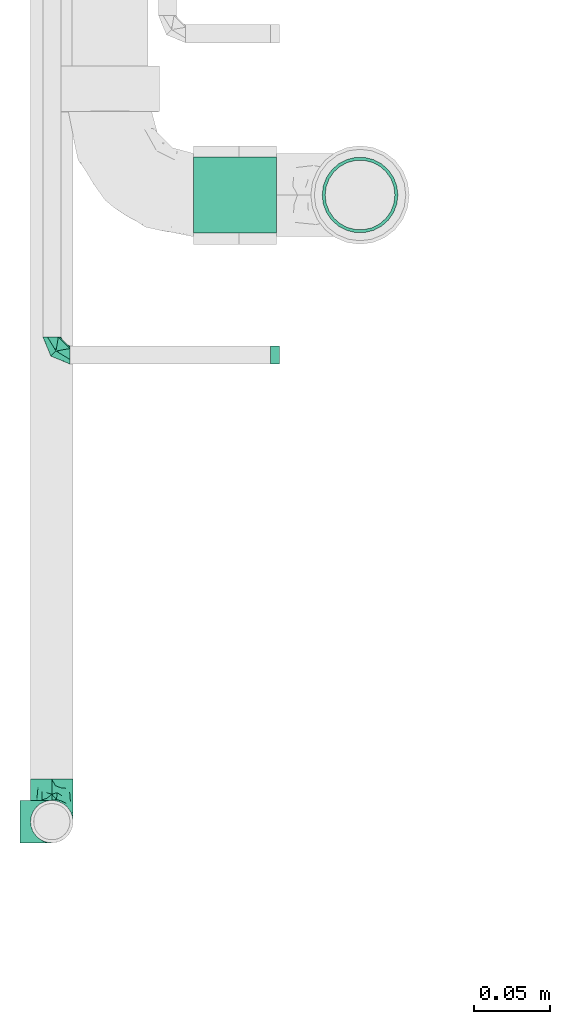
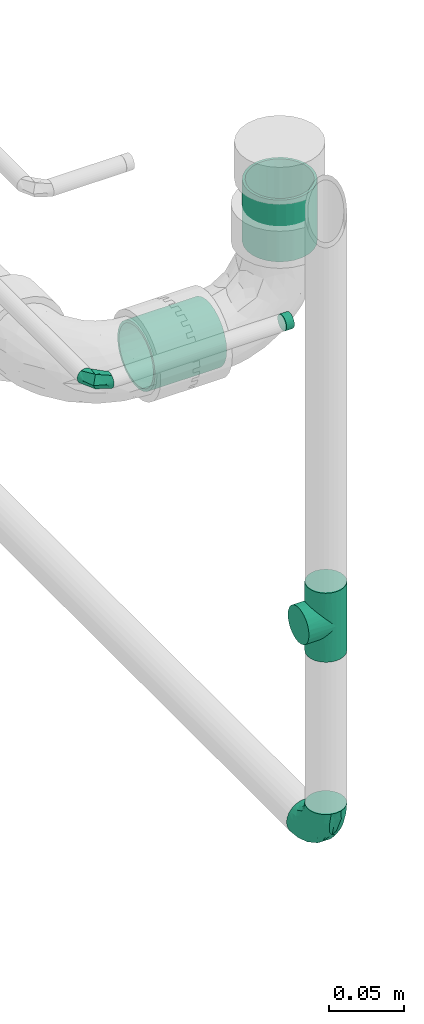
# One storey, part 65 of 108: 4 flow fittings, 2 flow segments.
"""IFC2X3 building model written with IfcOpenShell, lengths in millimetres."""

import ifcopenshell
import ifcopenshell.guid

model = None  # the IFC model being written
_history = None  # IfcOwnerHistory: only IFC2X3 demands one
_inside = {}  # id of a spatial element -> (the spatial element, [elements in it])
_under = {}  # id of a project, library or spatial element -> (it, [spatial elements below it])
_declared = {}  # id of a project -> (the project, [libraries it declares])
_typed = {}  # id of a type object -> (the type object, [elements of that type])
_made_of = {}  # id of a material, layer set ... -> (it, [elements and type objects made of it])


def new_model(schema):
    """Start an empty IFC model of exactly this schema.

    Asked for "IFC4X3", IfcOpenShell would pick the latest addendum, in which some entities
    have other attributes; the version numbers below select the first issue.
    IFC2X3 requires an IfcOwnerHistory on every rooted entity: one is made here for all.
    """
    global model, _history
    if schema == "IFC4X3":
        model = ifcopenshell.file(schema_version=(4, 3, 0, 0))
    else:
        model = ifcopenshell.file(schema=schema)
    _inside.clear()
    _under.clear()
    _declared.clear()
    _typed.clear()
    _made_of.clear()
    _history = None
    if model.schema == "IFC2X3":
        org = make("IfcOrganization", Name="unknown")
        user = make(
            "IfcPersonAndOrganization",
            ThePerson=make("IfcPerson", FamilyName="unknown"),
            TheOrganization=org,
        )
        app = make(
            "IfcApplication",
            ApplicationDeveloper=org,
            Version="unknown",
            ApplicationFullName="unknown",
            ApplicationIdentifier="unknown",
        )
        _history = make(
            "IfcOwnerHistory",
            OwningUser=user,
            OwningApplication=app,
            ChangeAction="ADDED",
            CreationDate=0,
        )
    return model


def make(cls, **values):
    """One entity of the class cls with the attributes given. An attribute that is None is left unset."""
    return model.create_entity(
        cls, **{name: value for name, value in values.items() if value is not None}
    )


def entity(cls, *values):
    """Any entity or typed value of the class cls, its attributes in the order of the schema. None: left unset."""
    e = model.create_entity(cls)
    for i, value in enumerate(values):
        if value is not None:
            e[i] = value
    return e


def rooted(cls, **values):
    """An entity with a GlobalId (a new one), such as an element, a storey or a relation."""
    return make(cls, GlobalId=ifcopenshell.guid.new(), OwnerHistory=_history, **values)


def si_unit(unit_type, name, prefix=None):
    """IfcSIUnit, for example si_unit("LENGTHUNIT", "METRE", prefix="MILLI")."""
    return make("IfcSIUnit", UnitType=unit_type, Prefix=prefix, Name=name)


def converted_unit(unit_type, name, factor, base, dimensions=None, offset=None):
    """IfcConversionBasedUnit, such as the inch: factor (a typed value) times the base unit."""
    return make(
        "IfcConversionBasedUnit"
        if offset is None
        else "IfcConversionBasedUnitWithOffset",
        ConversionOffset=offset,
        Dimensions=None
        if dimensions is None
        else entity("IfcDimensionalExponents", *dimensions),
        UnitType=unit_type,
        Name=name,
        ConversionFactor=make(
            "IfcMeasureWithUnit", ValueComponent=factor, UnitComponent=base
        ),
    )


def derived_unit(unit_type, elements):
    """IfcDerivedUnit: a product of units, each with its exponent."""
    return make(
        "IfcDerivedUnit",
        Elements=[
            make("IfcDerivedUnitElement", Unit=unit, Exponent=power)
            for unit, power in elements
        ],
        UnitType=unit_type,
    )


def assignment(units):
    """IfcUnitAssignment: the units of a project."""
    return None if units is None else make("IfcUnitAssignment", Units=units)


def point(xyz):
    """IfcCartesianPoint."""
    return None if xyz is None else make("IfcCartesianPoint", Coordinates=xyz)


def direction(xyz):
    """IfcDirection."""
    return None if xyz is None else make("IfcDirection", DirectionRatios=xyz)


def frame(location, z_axis=None, x_axis=None):
    """IfcAxis2Placement3D, a coordinate frame: its origin and axes. An axis left out is left unset."""
    return make(
        "IfcAxis2Placement3D",
        Location=point(location),
        Axis=direction(z_axis),
        RefDirection=direction(x_axis),
    )


def frame_2d(location, x_axis=None):
    """IfcAxis2Placement2D, a coordinate frame in the plane: its origin and x axis."""
    return make(
        "IfcAxis2Placement2D", Location=point(location), RefDirection=direction(x_axis)
    )


def origin_with_axes():
    """The frame at (0, 0, 0) with the z axis (0, 0, 1) and the x axis (1, 0, 0) written out."""
    return frame((0.0, 0.0, 0.0), z_axis=(0.0, 0.0, 1.0), x_axis=(1.0, 0.0, 0.0))


def origin_2d_with_axis():
    """The frame at (0, 0) in the plane with the x axis (1, 0) written out."""
    return frame_2d((0.0, 0.0), x_axis=(1.0, 0.0))


def place(relative_to, where):
    """IfcLocalPlacement: puts the frame where relative to a parent placement (None: the world)."""
    return make(
        "IfcLocalPlacement", PlacementRelTo=relative_to, RelativePlacement=where
    )


def context(
    kind, dimensions, precision=None, world=None, true_north=None, identifier=None
):
    """IfcGeometricRepresentationContext, for example the 3D "Model" context."""
    return make(
        "IfcGeometricRepresentationContext",
        ContextIdentifier=identifier,
        ContextType=kind,
        CoordinateSpaceDimension=dimensions,
        Precision=precision,
        WorldCoordinateSystem=world,
        TrueNorth=true_north,
    )


def subcontext(parent, identifier, kind, view, scale=None):
    """IfcGeometricRepresentationSubContext, for example "Body" below "Model"."""
    return make(
        "IfcGeometricRepresentationSubContext",
        ContextIdentifier=identifier,
        ContextType=kind,
        ParentContext=parent,
        TargetScale=scale,
        TargetView=view,
    )


def project(units=None, contexts=None):
    """IfcProject with its units and contexts."""
    return rooted(
        "IfcProject",
        Name="project",
        RepresentationContexts=contexts,
        UnitsInContext=assignment(units),
    )


def spatial(cls, under=None, at=None, **own):
    """A site, building, storey or space (cls), placed at a placement, below another one or the project."""
    s = rooted(cls, ObjectPlacement=at, **own)
    if under is not None:
        _under.setdefault(under.id(), (under, []))[1].append(s)
    return s


def profile(cls, at=None, kind="AREA", **sizes):
    """A parametric profile (cls). Its sizes go by their IFC names, for example OverallWidth=200.0."""
    return make(cls, ProfileType=kind, Position=at, **sizes)


def hollow_circle(**sizes):
    """IfcCircleHollowProfileDef."""
    return profile("IfcCircleHollowProfileDef", **sizes)


def extrude(swept, where, along, depth):
    """IfcExtrudedAreaSolid: the profile swept, set in the frame where, extruded along a direction by depth."""
    return make(
        "IfcExtrudedAreaSolid",
        SweptArea=swept,
        Position=where,
        ExtrudedDirection=direction(along),
        Depth=depth,
    )


def faces_of(points, faces, orient=None, outer=None):
    """IfcFace entities. A face is a list of loops; a loop is a list of indices into points, from 0.

    orient and outer hold one flag for each loop. By default every Orientation is true, the
    first loop of a face is its IfcFaceOuterBound and the others are IfcFaceBound.
    """
    made = []
    for i, loops in enumerate(faces):
        bounds = []
        for j, loop in enumerate(loops):
            is_outer = j == 0 if outer is None else outer[i][j]
            bounds.append(
                make(
                    "IfcFaceOuterBound" if is_outer else "IfcFaceBound",
                    Bound=make("IfcPolyLoop", Polygon=[points[k] for k in loop]),
                    Orientation=True if orient is None else orient[i][j],
                )
            )
        made.append(make("IfcFace", Bounds=bounds))
    return made


def open_shell(faces, orient=None, outer=None):
    """The faces of one IfcOpenShell. surface_model builds it on its shared points."""
    return ("IfcOpenShell", faces, orient, outer)


def surface_model(cls, points, shells):
    """IfcFaceBasedSurfaceModel or IfcShellBasedSurfaceModel (cls): surfaces that need not close."""
    shared = [point(p) for p in points]
    made = [make(c, CfsFaces=faces_of(shared, fs, o, b)) for c, fs, o, b in shells]
    if cls == "IfcFaceBasedSurfaceModel":
        return make(cls, FbsmFaces=made)
    return make(cls, SbsmBoundary=made)


def shape(context_of_items, identifier, shape_type, items):
    """IfcShapeRepresentation: the items that make up one representation, for example the "Body"."""
    return make(
        "IfcShapeRepresentation",
        ContextOfItems=context_of_items,
        RepresentationIdentifier=identifier,
        RepresentationType=shape_type,
        Items=items,
    )


def source(mapping_origin, context_of_items, identifier, shape_type, items):
    """IfcRepresentationMap: a shape defined once, which mapped items show again and again."""
    return make(
        "IfcRepresentationMap",
        MappingOrigin=mapping_origin,
        MappedRepresentation=shape(context_of_items, identifier, shape_type, items),
    )


def transform(
    local_origin,
    x_axis=None,
    y_axis=None,
    z_axis=None,
    scale=None,
    scale2=None,
    scale3=None,
    uniform=True,
):
    """IfcCartesianTransformationOperator3D, or its non-uniform kind. x_axis, y_axis, z_axis: its Axis1, 2, 3."""
    if uniform:
        return make(
            "IfcCartesianTransformationOperator3D",
            Axis1=direction(x_axis),
            Axis2=direction(y_axis),
            LocalOrigin=point(local_origin),
            Scale=scale,
            Axis3=direction(z_axis),
        )
    return make(
        "IfcCartesianTransformationOperator3DnonUniform",
        Axis1=direction(x_axis),
        Axis2=direction(y_axis),
        LocalOrigin=point(local_origin),
        Scale=scale,
        Axis3=direction(z_axis),
        Scale2=scale2,
        Scale3=scale3,
    )


def mapped(mapping_source, mapping_target):
    """IfcMappedItem: shows the shape of a source again, moved by a transform."""
    return make(
        "IfcMappedItem", MappingSource=mapping_source, MappingTarget=mapping_target
    )


def made_of(thing, what):
    """Note that an element or type object is made of a material, layer set ...; save() writes the relation."""
    if what is not None:
        _made_of.setdefault(what.id(), (what, []))[1].append(thing)
    return thing


def type_object(cls, material=None, **own):
    """A type object (cls), such as IfcWallType, which elements share."""
    return made_of(rooted(cls, **own), material)


def element(
    cls,
    number,
    at=None,
    inside=None,
    cuts=None,
    type_object=None,
    material=None,
    context=None,
    identifier="Body",
    shape_type=None,
    held_by="IfcProductDefinitionShape",
    body=None,
    shapes=None,
    **own,
):
    """One element of the class cls, such as IfcWall. Its Tag is "e" and its number.

    at: its placement. inside: the storey or other place that contains it. cuts: it is an
    opening in that element (IfcRelVoidsElement). A single representation is given by context,
    identifier, shape_type and body (its items); several are given by shapes. held_by: the class
    of the entity that holds the representations. save() writes the other relations.
    """
    e = rooted(cls, Tag="e%d" % number, ObjectPlacement=at, **own)
    if body is not None:
        shapes = [shape(context, identifier, shape_type, body)]
    if shapes is not None:
        e.Representation = make(held_by, Representations=shapes)
    if inside is not None:
        _inside.setdefault(inside.id(), (inside, []))[1].append(e)
    if cuts is not None:
        rooted(
            "IfcRelVoidsElement", RelatingBuildingElement=cuts, RelatedOpeningElement=e
        )
    if type_object is not None:
        _typed.setdefault(type_object.id(), (type_object, []))[1].append(e)
    return made_of(e, material)


def aggregate(whole, parts):
    """IfcRelAggregates: a whole, such as a stair, and the parts it consists of."""
    return rooted("IfcRelAggregates", RelatingObject=whole, RelatedObjects=parts)


def save(model, path):
    """Write the relations noted so far, then the file.

    IfcRelAggregates (storeys below a building ...), IfcRelContainedInSpatialStructure (elements
    in a storey), IfcRelDefinesByType, IfcRelAssociatesMaterial and IfcRelDeclares: one each for
    every whole, place, type object, material and project.
    """
    for whole, parts in _under.values():
        aggregate(whole, parts)
    for where, things in _inside.values():
        rooted(
            "IfcRelContainedInSpatialStructure",
            RelatedElements=things,
            RelatingStructure=where,
        )
    for kind, things in _typed.values():
        rooted("IfcRelDefinesByType", RelatedObjects=things, RelatingType=kind)
    for what, things in _made_of.values():
        rooted("IfcRelAssociatesMaterial", RelatedObjects=things, RelatingMaterial=what)
    for by, libraries in _declared.values():
        rooted("IfcRelDeclares", RelatingContext=by, RelatedDefinitions=libraries)
    model.write(path)


model = new_model("IFC2X3")

# Units and contexts
model_context = context("Model", 3, precision=0.01, world=frame((0.0, 4.29681676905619e-09, 0.0)), true_north=direction((4.01073788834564e-13, 1.0)))
plan_context = context("Plan", 3, precision=0.01, world=frame((0.0, 4.29681676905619e-09, 0.0)), true_north=direction((4.01073788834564e-13, 1.0)))
body_context = subcontext(model_context, "Body", "Model", "MODEL_VIEW")
ifc_project = project(units=[converted_unit("PLANEANGLEUNIT", "DEGREE", entity("IfcPositiveLengthMeasure", 0.0174532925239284), si_unit("PLANEANGLEUNIT", "RADIAN"), dimensions=[0, 0, 0, 0, 0, 0, 0]), si_unit("AREAUNIT", "SQUARE_METRE"), si_unit("LENGTHUNIT", "METRE", prefix="MILLI"), si_unit("MASSUNIT", "GRAM", prefix="KILO"), si_unit("POWERUNIT", "WATT"), si_unit("PRESSUREUNIT", "PASCAL", prefix="KILO"), si_unit("FORCEUNIT", "NEWTON", prefix="KILO"), si_unit("ELECTRICVOLTAGEUNIT", "VOLT"), si_unit("ELECTRICCURRENTUNIT", "AMPERE"), si_unit("THERMODYNAMICTEMPERATUREUNIT", "DEGREE_CELSIUS"), si_unit("TIMEUNIT", "SECOND"), si_unit("VOLUMEUNIT", "CUBIC_METRE"), derived_unit("LINEARVELOCITYUNIT", [(si_unit("LENGTHUNIT", "METRE"), 1), (si_unit("TIMEUNIT", "SECOND"), -1)]), derived_unit("VOLUMETRICFLOWRATEUNIT", [(si_unit("VOLUMEUNIT", "CUBIC_METRE"), 1), (si_unit("TIMEUNIT", "SECOND"), -1)]), derived_unit("THERMALTRANSMITTANCEUNIT", [(si_unit("POWERUNIT", "WATT"), 1), (si_unit("THERMODYNAMICTEMPERATUREUNIT", "KELVIN"), -1), (si_unit("AREAUNIT", "SQUARE_METRE"), -1)]), derived_unit("SOUNDPRESSUREUNIT", [(si_unit("PRESSUREUNIT", "PASCAL"), 1)])], contexts=[model_context, plan_context])

# Site, building, storey
site_placement = place(None, frame((0.0, -4.29681676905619e-09, 0.0), z_axis=(0.0, 0.0, 1.0), x_axis=(1.0, 0.0, 0.0)))
site = spatial("IfcSite", under=ifc_project, at=site_placement, CompositionType="ELEMENT")
building_placement = place(site_placement, frame((0.0, 4.29681676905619e-09, 0.0), z_axis=(0.0, 0.0, 1.0), x_axis=(1.0, 0.0, 0.0)))
building = spatial("IfcBuilding", under=site, at=building_placement, Name="mc-building", CompositionType="ELEMENT")
storey_placement = place(building_placement, frame((0.0, 0.0, 210200.0), z_axis=(0.0, 0.0, 1.0), x_axis=(1.0, 0.0, 0.0)))
storey = spatial("IfcBuildingStorey", under=building, at=storey_placement, Name="Nivå F - 0,7 m", CompositionType="ELEMENT", Elevation=210200.0)

# Flow fittings
pipe_fitting_type_1 = type_object("IfcPipeFittingType", Name="magi_pipe_elbow_short_001", PredefinedType="BEND")
shared_shape_1 = source(origin_with_axes(), body_context, "Body", "SurfaceModel", [
    surface_model("IfcShellBasedSurfaceModel", [(-12.0, 0.0, -6.0), (-12.0, -5.19615, -3.0), (-12.0, 1.55291, -5.79555), (-12.0, 5.79555, -1.55291), (-12.0, -5.79555, -1.55291), (-12.0, -6.0, 0.0), (-12.0, -1.55291, 5.79555), (-12.0, 0.0, 6.0), (-12.0, -3.0, 5.19615), (-12.0, 3.0, -5.19615), (-12.0, 5.19615, -3.0), (-12.0, 4.24264, -4.24264), (-12.0, -3.0, -5.19615), (-12.0, -4.24264, -4.24264), (-12.0, -1.55291, -5.79555), (-12.0, 6.0, 0.0), (-12.0, -4.24264, 4.24264), (-12.0, 5.79555, 1.55291), (-12.0, 5.19615, 3.0), (-12.0, 4.24264, 4.24264), (-12.0, 1.55291, 5.79555), (-12.0, 3.0, 5.19615), (-12.0, -5.79555, 1.55291), (-12.0, -5.19615, 3.0), (-1.55291, 12.0, -5.79555), (5.19615, 12.0, -3.0), (0.0, 12.0, -6.0), (-5.79555, 12.0, -1.55291), (-3.0, 12.0, -5.19615), (-4.24264, 12.0, -4.24264), (-5.19615, 12.0, -3.0), (1.55291, 12.0, -5.79555), (4.24264, 12.0, -4.24264), (3.0, 12.0, -5.19615), (6.0, 12.0, 0.0), (5.79555, 12.0, -1.55291), (-4.24264, 12.0, 4.24264), (-3.0, 12.0, 5.19615), (-1.55291, 12.0, 5.79555), (4.24264, 12.0, 4.24264), (5.19615, 12.0, 3.0), (3.0, 12.0, 5.19615), (0.0, 12.0, 6.0), (1.55291, 12.0, 5.79555), (-2.67965, 2.67964, 5.88263), (-6.5981, -3.76246, 0.0), (0.72792, -0.72792, 0.0), (3.76246, 6.5981, 0.0), (5.79555, 12.0, 1.55291), (-5.19615, 12.0, 3.0), (-7.75736, 7.75736, 0.0), (-5.79555, 12.0, 1.55291), (-6.0, 12.0, 0.0), (-2.67964, 2.67964, -5.88263)], [open_shell([[[0, 1, 2]], [[3, 2, 1]], [[4, 5, 1]], [[6, 7, 8]], [[9, 2, 3]], [[3, 10, 11]], [[9, 3, 11]], [[12, 13, 14]], [[1, 14, 13]], [[0, 14, 1]], [[1, 5, 3]], [[5, 15, 3]], [[16, 17, 5]], [[18, 17, 19]], [[20, 21, 19]], [[17, 20, 19]], [[20, 17, 8]], [[5, 22, 23]], [[5, 23, 16]], [[17, 16, 8]], [[20, 8, 7]], [[17, 15, 5]], [[24, 25, 26]], [[27, 24, 28]], [[29, 30, 27]], [[29, 27, 28]], [[31, 32, 33]], [[32, 31, 25]], [[25, 34, 35]], [[25, 31, 26]], [[36, 37, 38]], [[39, 40, 34]], [[41, 42, 43]], [[42, 41, 38]], [[6, 44, 7]], [[23, 22, 45]], [[16, 23, 45]], [[22, 5, 45]], [[46, 47, 44]], [[8, 45, 44]], [[20, 7, 44]], [[8, 44, 6]], [[40, 47, 48]], [[16, 45, 8]], [[18, 19, 49]], [[44, 19, 21]], [[17, 18, 50]], [[50, 15, 17]], [[50, 18, 49]], [[21, 20, 44]], [[45, 46, 44]], [[41, 43, 44]], [[47, 41, 44]], [[43, 42, 44]], [[34, 48, 47]], [[41, 47, 39]], [[39, 47, 40]], [[49, 51, 50]], [[52, 50, 51]], [[37, 36, 44]], [[36, 19, 44]], [[49, 19, 36]], [[38, 37, 44]], [[42, 38, 44]], [[9, 53, 2]], [[2, 53, 0]], [[50, 10, 3]], [[46, 45, 53]], [[11, 29, 53]], [[1, 45, 4]], [[11, 10, 29]], [[9, 11, 53]], [[45, 5, 4]], [[1, 13, 45]], [[14, 53, 12]], [[45, 13, 12]], [[12, 53, 45]], [[0, 53, 14]], [[3, 15, 50]], [[50, 52, 27]], [[50, 27, 30]], [[29, 10, 30]], [[31, 53, 26]], [[53, 28, 24]], [[35, 34, 47]], [[53, 29, 28]], [[26, 53, 24]], [[53, 33, 47]], [[47, 33, 32]], [[25, 35, 47]], [[47, 46, 53]], [[47, 32, 25]], [[33, 53, 31]], [[30, 10, 50]], [[25, 24, 27]], [[27, 34, 25]], [[27, 52, 34]], [[34, 51, 39]], [[36, 51, 49]], [[36, 38, 51]], [[41, 51, 38]], [[40, 48, 34]], [[41, 39, 51]], [[34, 52, 51]]])]),
])
flow_fitting_1_placement = place(storey_placement, frame((321845.77944, 461449.93583, 570.000319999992), z_axis=(0.000171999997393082, -2.69999995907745e-05, 0.9999999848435), x_axis=(0.0, -0.9999999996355, -2.69999999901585e-05)))
element("IfcFlowFitting", 1, at=flow_fitting_1_placement, inside=storey, type_object=pipe_fitting_type_1, Name="magi_pipe_elbow_short_001", context=body_context, shape_type="MappedRepresentation", body=[
    mapped(shared_shape_1, transform((0.0, 0.0, 0.0), scale=1.0)),
])
shared_shape_2 = source(origin_with_axes(), body_context, "Body", "SurfaceModel", [
    surface_model("IfcShellBasedSurfaceModel", [(-28.0, 3.62347, -13.52296), (-28.0, 0.0, -14.0), (-28.0, 13.52296, -3.62347), (-28.0, 7.0, -12.12436), (-28.0, 9.89949, -9.89949), (-28.0, 12.12436, -7.0), (-28.0, -9.89949, 9.89949), (-28.0, -13.52296, -3.62347), (-28.0, -7.0, -12.12436), (-28.0, -9.89949, -9.89949), (-28.0, -3.62347, -13.52296), (-28.0, -12.12436, -7.0), (-28.0, -14.0, 0.0), (-28.0, -13.52296, 3.62347), (-28.0, 13.52296, 3.62347), (-28.0, 14.0, 0.0), (-28.0, 3.62347, 13.52296), (-28.0, 12.12436, 7.0), (-28.0, 9.89949, 9.89949), (-28.0, 7.0, 12.12436), (-28.0, 0.0, 14.0), (-28.0, -12.12436, 7.0), (-28.0, -3.62347, 13.52296), (-28.0, -7.0, 12.12436), (-13.52296, 28.0, -3.62347), (0.0, 28.0, -14.0), (-3.62347, 28.0, -13.52296), (-9.89949, 28.0, -9.89949), (-7.0, 28.0, -12.12436), (-12.12436, 28.0, -7.0), (13.52296, 28.0, -3.62347), (-9.89949, 28.0, 9.89949), (3.62347, 28.0, -13.52296), (9.89949, 28.0, -9.89949), (7.0, 28.0, -12.12436), (12.12436, 28.0, -7.0), (13.52296, 28.0, 3.62347), (14.0, 28.0, 0.0), (-13.52296, 28.0, 3.62347), (-12.12436, 28.0, 7.0), (-7.0, 28.0, 12.12436), (-3.62347, 28.0, 13.52296), (9.89949, 28.0, 9.89949), (0.0, 28.0, 14.0), (12.12436, 28.0, 7.0), (7.0, 28.0, 12.12436), (3.62347, 28.0, 13.52296), (-14.0, 28.0, 0.0), (-18.74729, -12.24672, 4.38175), (-20.4978, -10.87112, 7.8554), (-14.63098, -10.41778, 0.0), (-11.36869, -10.18884, 3.09687), (5.89274, 4.32805, 4.24468), (3.06694, 4.04075, 8.35629), (-0.17293, -0.734, 7.21134), (-12.21635, -8.85831, 7.04954), (-3.77138, -5.46958, 4.31404), (-21.31549, -12.20889, 0.0), (6.34939, 11.25924, 9.57712), (8.06481, 18.3168, 10.42711), (3.37486, 10.81192, 11.64293), (-18.31681, -8.06481, 10.42711), (-20.56266, -5.29223, 12.59496), (-21.38752, -1.85462, 13.76057), (-19.60454, 2.14601, 13.97614), (-10.81192, -3.37486, 11.64293), (-13.93831, -0.12564, 13.56955), (-21.5811, 5.49074, 13.225), (-21.95612, 11.65158, 9.17996), (-20.05772, 14.63261, 6.40071), (-24.5084, 13.14639, 5.80116), (-14.41344, 20.50581, 6.33709), (-4.86565, 13.76759, 13.97488), (-10.37, 10.37, 13.65983), (-8.33631, 6.11788, 13.92788), (-14.75744, 15.63504, 9.91683), (-24.22185, 8.47816, 11.40754), (-3.65439, 9.37683, 13.74657), (-6.95631, 2.56833, 13.07318), (-1.43023, 7.56381, 12.86583), (-23.31553, 14.32852, 3.52781), (-21.69779, 16.61046, 0.0), (-5.22595, 24.14907, 13.1135), (-1.91876, 20.94202, 13.96561), (5.29223, 20.56266, 12.59496), (-4.80832, -3.33944, 8.67628), (-2.5008, 2.5008, 11.44619), (1.85462, 21.38752, 13.76057), (10.87112, 20.4978, 7.8554), (8.85831, 12.21635, 7.04954), (12.24672, 18.74729, 4.38175), (-11.25924, -6.34939, 9.57712), (-15.37363, 21.10999, 3.25616), (-19.14983, 16.6358, 3.33834), (10.18884, 11.36869, 3.09687), (10.41778, 14.63098, 0.0), (12.20889, 21.31549, 0.0), (-18.10051, 18.10051, 0.0), (8.37307, 7.0, 0.0), (-11.50288, 18.59955, 10.71326), (-8.84699, 21.68272, 11.60426), (-11.55739, 22.32322, 9.13967), (-10.58943, 15.13428, 12.47628), (-6.05474, 18.97034, 13.33304), (-14.9522, 12.56273, 11.63436), (-7.0, -8.37307, 0.0), (-15.38425, 5.99686, 13.74946), (-13.73768, 3.4306, 13.99403), (-14.88363, 9.49937, 12.94918), (-8.15523, 14.5327, 13.41132), (0.12564, 13.93831, 13.56955), (-19.27864, 9.50344, 11.78944), (-1.06605, 0.88351, 9.56863), (-3.83005, -4.31684, 6.58349), (-3.15673, -4.5298, 0.0), (1.6378, -1.17307, 3.37596), (-16.61046, 21.69779, 0.0), (4.5298, 3.15673, 0.0), (0.68653, -0.68653, 0.0), (-22.16307, 1.77021, -13.95443), (-12.1112, 20.49304, -9.34219), (-20.84882, -12.5942, -4.60988), (-21.54235, 5.49691, -13.22664), (-19.10898, 16.60593, -3.53067), (-11.43732, -3.53319, -11.74569), (-12.15681, -0.17464, -13.31564), (-5.62502, -0.23427, -11.47155), (-20.32556, 9.17949, -11.70878), (-22.13531, 11.60457, -9.16028), (8.41708, 20.6911, -10.6019), (-16.88435, 12.82951, -10.55878), (-11.13704, -10.24959, -2.34743), (-4.84185, -6.54661, -3.36137), (-12.96604, 16.27159, -10.78023), (-9.97005, 17.11892, -12.15817), (-12.93887, 12.93887, -12.29249), (-1.2334, -2.64201, -5.92074), (1.22973, 2.47088, -8.8979), (5.16596, 4.11707, -5.50974), (-13.82252, 8.10203, -13.53774), (-19.77353, -10.77046, -7.78839), (-20.6911, -8.41708, -10.6019), (-5.71492, 20.3686, -13.27579), (12.5942, 20.84882, -4.60988), (-23.64458, -5.51923, -12.7416), (-12.09227, -8.27186, -7.82819), (-10.45313, -5.71095, -9.79365), (0.58937, 6.57638, -11.67536), (0.17464, 12.15681, -13.31564), (2.89353, 11.95196, -12.23037), (-23.72828, 14.45075, -2.39672), (-13.72718, 22.21732, -6.10198), (-14.65489, 22.72001, -3.11815), (10.77046, 19.77353, -7.78839), (-4.94234, 4.94234, -13.21976), (-17.01297, 16.64546, -6.86733), (-1.77021, 22.16307, -13.95443), (-8.78719, 21.97882, -11.58143), (1.76523, 20.62648, -13.74402), (5.51923, 23.64458, -12.7416), (-20.62648, -1.76523, -13.74402), (-17.72962, -4.83155, -12.45127), (-3.30956, 15.42318, -13.99698), (-7.57019, 8.16927, -13.99205), (-8.28388, 13.27199, -13.5833), (-6.87455, -6.54348, -6.32219), (9.88737, 10.40056, -2.49707), (6.89392, 5.1145, -2.73992), (0.30381, -2.5875, -3.00478), (-22.38273, 13.76108, -5.90633), (9.77824, 12.19087, -5.31295), (8.70689, 13.51955, -8.04189), (5.71095, 10.45313, -9.79365), (4.83155, 17.72962, -12.45127), (-4.06757, -2.72494, -8.72853), (6.23857, 7.82545, -7.6266), (-15.42318, 3.30956, -13.99698), (-16.05025, 23.05025, 0.0), (-12.19087, -9.77824, -5.31295), (3.79914, 1.24839, -3.50098), (-15.61294, 15.85577, -9.08381)], [open_shell([[[0, 1, 2]], [[3, 0, 4]], [[2, 5, 4]], [[0, 2, 4]], [[6, 1, 7]], [[8, 9, 10]], [[9, 1, 10]], [[11, 7, 9]], [[9, 7, 1]], [[12, 13, 7]], [[2, 1, 6]], [[14, 15, 16]], [[17, 14, 18]], [[16, 19, 18]], [[14, 16, 18]], [[20, 16, 15]], [[21, 6, 13]], [[6, 7, 13]], [[22, 20, 23]], [[6, 23, 20]], [[2, 6, 20]], [[15, 2, 20]], [[24, 25, 26]], [[27, 26, 28]], [[27, 29, 24]], [[27, 24, 26]], [[30, 25, 31]], [[32, 33, 34]], [[32, 25, 33]], [[33, 30, 35]], [[25, 30, 33]], [[30, 36, 37]], [[31, 25, 24]], [[24, 38, 31]], [[31, 38, 39]], [[31, 40, 41]], [[31, 42, 30]], [[41, 43, 31]], [[36, 42, 44]], [[30, 42, 36]], [[45, 43, 46]], [[43, 45, 42]], [[31, 43, 42]], [[24, 47, 38]], [[48, 49, 21]], [[48, 50, 51]], [[52, 53, 54]], [[55, 51, 56]], [[49, 6, 21]], [[57, 48, 13]], [[58, 59, 60]], [[61, 23, 6]], [[61, 62, 23]], [[20, 63, 64]], [[62, 65, 66]], [[59, 42, 45]], [[20, 22, 63]], [[67, 19, 16]], [[68, 69, 70]], [[39, 38, 71]], [[72, 73, 74]], [[69, 68, 75]], [[20, 64, 16]], [[19, 76, 18]], [[17, 18, 68]], [[77, 78, 79]], [[80, 81, 15]], [[41, 82, 83]], [[45, 84, 59]], [[85, 86, 65]], [[46, 43, 87]], [[88, 89, 90]], [[91, 65, 61]], [[43, 41, 83]], [[71, 92, 93]], [[90, 94, 95]], [[84, 45, 46]], [[88, 90, 44]], [[59, 84, 60]], [[36, 44, 90]], [[75, 71, 69]], [[23, 62, 22]], [[90, 96, 36]], [[97, 81, 93]], [[94, 98, 95]], [[92, 97, 93]], [[50, 48, 57]], [[70, 14, 17]], [[99, 100, 101]], [[31, 101, 100]], [[40, 31, 100]], [[102, 103, 100]], [[103, 72, 83]], [[82, 100, 103]], [[82, 41, 40]], [[99, 104, 102]], [[15, 14, 80]], [[67, 16, 64]], [[51, 50, 105]], [[48, 21, 13]], [[49, 55, 61]], [[44, 42, 88]], [[89, 52, 94]], [[106, 107, 74]], [[108, 67, 106]], [[31, 39, 101]], [[109, 102, 73]], [[103, 109, 72]], [[87, 83, 110]], [[76, 68, 18]], [[68, 111, 104]], [[65, 62, 61]], [[63, 62, 66]], [[91, 61, 55]], [[65, 86, 78]], [[87, 84, 46]], [[110, 79, 60]], [[110, 60, 84]], [[86, 112, 60]], [[55, 49, 48]], [[61, 6, 49]], [[42, 59, 88]], [[89, 88, 59]], [[106, 67, 64]], [[76, 67, 111]], [[53, 52, 89]], [[112, 86, 85]], [[56, 113, 55]], [[112, 54, 53]], [[58, 89, 59]], [[56, 51, 105]], [[114, 115, 56]], [[14, 70, 80]], [[69, 71, 93]], [[47, 116, 92]], [[92, 116, 97]], [[39, 71, 101]], [[75, 101, 71]], [[99, 102, 100]], [[108, 104, 111]], [[106, 74, 73]], [[110, 83, 72]], [[78, 74, 66]], [[72, 74, 77]], [[83, 87, 43]], [[84, 87, 110]], [[62, 63, 22]], [[64, 63, 66]], [[13, 12, 57]], [[96, 90, 95]], [[96, 37, 36]], [[115, 117, 52]], [[56, 105, 114]], [[55, 48, 51]], [[89, 94, 90]], [[52, 98, 94]], [[106, 64, 107]], [[108, 106, 73]], [[102, 108, 73]], [[67, 108, 111]], [[102, 104, 108]], [[68, 104, 75]], [[64, 66, 107]], [[66, 74, 107]], [[65, 78, 66]], [[79, 78, 86]], [[60, 79, 86]], [[77, 79, 110]], [[72, 77, 110]], [[78, 77, 74]], [[67, 76, 19]], [[68, 76, 111]], [[100, 82, 40]], [[83, 82, 103]], [[68, 70, 17]], [[80, 69, 93]], [[69, 80, 70]], [[80, 93, 81]], [[55, 85, 91]], [[85, 65, 91]], [[60, 53, 58]], [[53, 89, 58]], [[54, 112, 85]], [[60, 112, 53]], [[85, 113, 54]], [[113, 115, 54]], [[55, 113, 85]], [[115, 113, 56]], [[71, 38, 92]], [[115, 114, 118]], [[47, 92, 38]], [[101, 75, 99]], [[99, 75, 104]], [[72, 109, 73]], [[103, 102, 109]], [[54, 115, 52]], [[117, 115, 118]], [[117, 98, 52]], [[0, 119, 1]], [[29, 27, 120]], [[121, 57, 7]], [[3, 122, 0]], [[97, 123, 81]], [[124, 125, 126]], [[127, 4, 128]], [[33, 129, 34]], [[127, 128, 130]], [[131, 132, 105]], [[133, 134, 135]], [[127, 3, 4]], [[136, 137, 138]], [[139, 122, 127]], [[4, 5, 128]], [[11, 140, 121]], [[141, 140, 9]], [[26, 142, 28]], [[95, 143, 96]], [[144, 8, 10]], [[145, 141, 146]], [[30, 37, 96]], [[147, 148, 149]], [[140, 11, 9]], [[15, 81, 150]], [[130, 133, 135]], [[151, 152, 24]], [[153, 35, 143]], [[147, 154, 148]], [[24, 29, 151]], [[120, 155, 151]], [[33, 153, 129]], [[25, 156, 26]], [[26, 156, 142]], [[143, 35, 30]], [[27, 28, 157]], [[123, 152, 155]], [[158, 32, 159]], [[144, 160, 161]], [[122, 3, 127]], [[148, 162, 158]], [[157, 28, 142]], [[162, 163, 164]], [[159, 32, 34]], [[165, 136, 132]], [[35, 153, 33]], [[166, 98, 167]], [[160, 10, 1]], [[161, 160, 125]], [[95, 166, 143]], [[50, 131, 105]], [[121, 7, 11]], [[168, 114, 132]], [[150, 169, 2]], [[167, 98, 117]], [[32, 158, 25]], [[164, 142, 162]], [[133, 157, 134]], [[9, 8, 141]], [[165, 145, 146]], [[170, 171, 153]], [[129, 172, 173]], [[126, 137, 174]], [[175, 137, 172]], [[148, 158, 173]], [[156, 158, 162]], [[149, 172, 147]], [[148, 154, 163]], [[119, 160, 1]], [[176, 163, 125]], [[176, 125, 160]], [[125, 154, 126]], [[169, 128, 5]], [[127, 130, 135]], [[139, 127, 135]], [[119, 122, 176]], [[120, 151, 29]], [[152, 97, 177]], [[142, 164, 134]], [[120, 27, 157]], [[152, 47, 24]], [[81, 123, 150]], [[123, 155, 169]], [[152, 123, 97]], [[140, 178, 121]], [[121, 178, 131]], [[144, 141, 8]], [[146, 141, 161]], [[30, 96, 143]], [[170, 153, 143]], [[129, 153, 171]], [[159, 129, 173]], [[137, 147, 172]], [[126, 154, 147]], [[172, 171, 175]], [[174, 137, 136]], [[137, 126, 147]], [[126, 146, 124]], [[117, 118, 179]], [[179, 138, 167]], [[128, 169, 155]], [[5, 2, 169]], [[57, 121, 50]], [[57, 12, 7]], [[122, 119, 0]], [[160, 119, 176]], [[158, 156, 25]], [[142, 156, 162]], [[162, 148, 163]], [[139, 135, 164]], [[125, 163, 154]], [[139, 163, 176]], [[163, 139, 164]], [[122, 139, 176]], [[155, 180, 128]], [[180, 120, 133]], [[180, 133, 130]], [[157, 133, 120]], [[142, 134, 157]], [[164, 135, 134]], [[128, 180, 130]], [[120, 180, 155]], [[152, 151, 155]], [[47, 152, 177]], [[169, 150, 123]], [[15, 150, 2]], [[121, 131, 50]], [[178, 165, 132]], [[178, 132, 131]], [[168, 132, 136]], [[145, 165, 178]], [[174, 165, 146]], [[178, 140, 145]], [[141, 145, 140]], [[179, 136, 138]], [[170, 166, 167]], [[168, 179, 118]], [[170, 167, 138]], [[143, 166, 170]], [[95, 98, 166]], [[117, 179, 167]], [[136, 179, 168]], [[129, 159, 34]], [[158, 159, 173]], [[160, 144, 10]], [[141, 144, 161]], [[175, 170, 138]], [[129, 171, 172]], [[170, 175, 171]], [[137, 175, 138]], [[148, 173, 149]], [[172, 149, 173]], [[165, 174, 136]], [[126, 174, 146]], [[146, 161, 124]], [[125, 124, 161]], [[114, 168, 118]], [[114, 105, 132]]])]),
])
flow_fitting_2_placement = place(storey_placement, frame((321845.71299, 461141.93584, 390.282059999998), z_axis=(-1.0, 0.0, 0.0), x_axis=(0.0, -1.0, 0.0)))
element("IfcFlowFitting", 2, at=flow_fitting_2_placement, inside=storey, type_object=pipe_fitting_type_1, Name="magi_pipe_elbow_short_001", context=body_context, shape_type="MappedRepresentation", body=[
    mapped(shared_shape_2, transform((0.0, 0.0, 0.0), scale=1.0)),
])
pipe_fitting_type_2 = type_object("IfcPipeFittingType", Name="magi_pipe_tee_centric_90_001", PredefinedType="JUNCTION")
shared_shape_3 = source(origin_with_axes(), body_context, "Body", "SurfaceModel", [
    surface_model("IfcShellBasedSurfaceModel", [(-28.0, 7.0, -12.12436), (-28.0, 3.62347, -13.52296), (-28.0, 9.89949, -9.89949), (-28.0, -7.0, -12.12436), (-28.0, -9.89949, -9.89949), (-28.0, -3.62347, -13.52296), (-28.0, 0.0, -14.0), (-28.0, 13.52296, -3.62347), (-28.0, 12.12436, -7.0), (-28.0, -12.12436, -7.0), (-28.0, -13.52296, -3.62347), (-28.0, -14.0, 0.0), (-28.0, 14.0, 0.0), (-28.0, 12.12436, 7.0), (-28.0, 13.52296, 3.62347), (-28.0, 7.0, 12.12436), (-28.0, 3.62347, 13.52296), (-28.0, 9.89949, 9.89949), (-28.0, 0.0, 14.0), (-28.0, -13.52296, 3.62347), (-28.0, -12.12436, 7.0), (-28.0, -9.89949, 9.89949), (-28.0, -7.0, 12.12436), (-28.0, -3.62347, 13.52296), (28.0, 9.89949, -9.89949), (28.0, 0.0, -14.0), (28.0, 3.62347, -13.52296), (28.0, 7.0, -12.12436), (28.0, 12.12436, -7.0), (28.0, 13.52296, -3.62347), (28.0, -12.12436, -7.0), (28.0, -3.62347, -13.52296), (28.0, -9.89949, -9.89949), (28.0, -7.0, -12.12436), (28.0, -14.0, 0.0), (28.0, -13.52296, -3.62347), (28.0, 7.0, 12.12436), (28.0, 14.0, 0.0), (28.0, 13.52296, 3.62347), (28.0, 12.12436, 7.0), (28.0, 3.62347, 13.52296), (28.0, 9.89949, 9.89949), (28.0, 0.0, 14.0), (28.0, -12.12436, 7.0), (28.0, -13.52296, 3.62347), (28.0, -9.89949, 9.89949), (28.0, -3.62347, 13.52296), (28.0, -7.0, 12.12436), (13.49217, -13.49217, 3.73648), (14.0, -14.0, 0.0), (12.11708, -12.11708, 7.01259), (7.84674, -7.84674, 11.59434), (10.15905, -10.15905, 9.63294), (-14.0, -14.0, 0.0), (-13.49217, -13.49217, 3.73648), (-12.11708, -12.11708, 7.01259), (-10.15905, -10.15905, 9.63294), (-7.84674, -7.84674, 11.59434), (-5.32575, -5.32575, 12.94745), (5.32575, -5.32575, 12.94745), (2.68835, -2.68835, 13.73946), (0.0, 0.0, 14.0), (-2.68835, -2.68835, 13.73946), (2.68835, -2.68835, -13.73946), (0.0, 0.0, -14.0), (-2.68835, -2.68835, -13.73946), (-5.32575, -5.32575, -12.94745), (5.32575, -5.32575, -12.94745), (7.84674, -7.84674, -11.59434), (10.15905, -10.15905, -9.63294), (12.11708, -12.11708, -7.01259), (13.49217, -13.49217, -3.73648), (-7.84674, -7.84674, -11.59434), (-10.15905, -10.15905, -9.63294), (-13.49217, -13.49217, -3.73648), (-12.11708, -12.11708, -7.01259), (9.89949, -21.0, -9.89949), (0.0, -21.0, -14.0), (3.62347, -21.0, -13.52296), (7.0, -21.0, -12.12436), (12.12436, -21.0, -7.0), (13.52296, -21.0, -3.62347), (-12.12436, -21.0, -7.0), (-14.0, -21.0, 0.0), (-3.62347, -21.0, -13.52296), (-9.89949, -21.0, -9.89949), (-7.0, -21.0, -12.12436), (-13.52296, -21.0, -3.62347), (-13.52296, -21.0, 3.62347), (14.0, -21.0, 0.0), (13.52296, -21.0, 3.62347), (12.12436, -21.0, 7.0), (-9.89949, -21.0, 9.89949), (7.0, -21.0, 12.12436), (0.0, -21.0, 14.0), (9.89949, -21.0, 9.89949), (3.62347, -21.0, 13.52296), (-12.12436, -21.0, 7.0), (-3.62347, -21.0, 13.52296), (-7.0, -21.0, 12.12436)], [open_shell([[[0, 1, 2]], [[3, 4, 5]], [[1, 6, 2]], [[6, 7, 8]], [[2, 6, 8]], [[9, 7, 6]], [[9, 5, 4]], [[10, 11, 9]], [[6, 5, 9]], [[9, 11, 7]], [[11, 12, 7]], [[13, 14, 12]], [[15, 13, 12]], [[15, 11, 16]], [[17, 13, 15]], [[11, 18, 16]], [[19, 20, 11]], [[20, 21, 11]], [[22, 23, 21]], [[18, 21, 23]], [[11, 21, 18]], [[11, 15, 12]], [[24, 25, 26]], [[24, 26, 27]], [[28, 29, 25]], [[28, 25, 24]], [[25, 29, 30]], [[31, 32, 33]], [[32, 31, 30]], [[30, 34, 35]], [[30, 31, 25]], [[30, 36, 34]], [[30, 29, 37]], [[37, 38, 39]], [[39, 36, 30]], [[40, 34, 36]], [[36, 39, 41]], [[34, 40, 42]], [[34, 43, 44]], [[34, 45, 43]], [[45, 46, 47]], [[46, 45, 42]], [[42, 45, 34]], [[39, 30, 37]], [[44, 43, 48]], [[34, 44, 49]], [[49, 44, 48]], [[43, 50, 48]], [[45, 47, 51]], [[50, 43, 52]], [[51, 52, 45]], [[52, 43, 45]], [[53, 54, 19]], [[53, 19, 11]], [[19, 54, 20]], [[54, 55, 20]], [[56, 57, 21]], [[21, 20, 56]], [[21, 57, 22]], [[56, 20, 55]], [[22, 57, 58]], [[51, 47, 59]], [[60, 42, 61]], [[59, 46, 60]], [[46, 59, 47]], [[60, 46, 42]], [[61, 42, 40]], [[39, 38, 14]], [[17, 36, 41]], [[13, 41, 39]], [[40, 36, 15]], [[12, 38, 37]], [[62, 61, 18]], [[62, 23, 58]], [[23, 62, 18]], [[58, 23, 22]], [[61, 16, 18]], [[40, 16, 61]], [[15, 16, 40]], [[15, 36, 17]], [[13, 17, 41]], [[14, 13, 39]], [[38, 12, 14]], [[8, 28, 24]], [[12, 37, 29]], [[24, 27, 0]], [[28, 7, 29]], [[25, 31, 63]], [[25, 64, 26]], [[64, 25, 63]], [[27, 26, 1]], [[64, 1, 26]], [[8, 24, 2]], [[7, 28, 8]], [[24, 0, 2]], [[7, 12, 29]], [[65, 66, 5]], [[6, 1, 64]], [[6, 65, 5]], [[66, 3, 5]], [[1, 0, 27]], [[6, 64, 65]], [[63, 31, 67]], [[33, 32, 68]], [[69, 68, 32]], [[30, 70, 69]], [[69, 32, 30]], [[33, 68, 67]], [[35, 34, 49]], [[35, 71, 30]], [[71, 35, 49]], [[30, 71, 70]], [[72, 3, 66]], [[72, 4, 3]], [[4, 72, 73]], [[4, 73, 9]], [[74, 53, 10]], [[75, 74, 9]], [[74, 10, 9]], [[10, 53, 11]], [[75, 9, 73]], [[33, 67, 31]], [[76, 77, 78]], [[76, 78, 79]], [[76, 80, 81]], [[77, 76, 82]], [[83, 76, 81]], [[84, 85, 86]], [[85, 84, 82]], [[82, 83, 87]], [[82, 84, 77]], [[76, 83, 82]], [[81, 88, 83]], [[89, 90, 91]], [[92, 89, 91]], [[91, 93, 94]], [[93, 91, 95]], [[96, 94, 93]], [[88, 92, 97]], [[88, 89, 92]], [[92, 98, 99]], [[98, 92, 94]], [[91, 94, 92]], [[89, 88, 81]], [[88, 53, 83]], [[97, 54, 88]], [[57, 92, 99]], [[99, 98, 58]], [[97, 92, 56]], [[94, 62, 98]], [[54, 53, 88]], [[55, 54, 97]], [[57, 56, 92]], [[62, 58, 98]], [[57, 99, 58]], [[55, 97, 56]], [[94, 61, 62]], [[51, 93, 95]], [[59, 96, 93]], [[90, 89, 49]], [[95, 91, 52]], [[90, 48, 91]], [[48, 90, 49]], [[61, 94, 60]], [[59, 60, 96]], [[48, 50, 91]], [[52, 51, 95]], [[50, 52, 91]], [[59, 93, 51]], [[60, 94, 96]], [[81, 49, 89]], [[80, 71, 81]], [[68, 76, 79]], [[79, 78, 67]], [[80, 76, 69]], [[77, 63, 78]], [[71, 49, 81]], [[70, 71, 80]], [[68, 69, 76]], [[63, 67, 78]], [[68, 79, 67]], [[70, 80, 69]], [[77, 64, 63]], [[86, 66, 84]], [[85, 72, 86]], [[87, 83, 53]], [[85, 82, 73]], [[87, 74, 82]], [[74, 87, 53]], [[64, 77, 65]], [[66, 65, 84]], [[74, 75, 82]], [[73, 72, 85]], [[75, 73, 82]], [[66, 86, 72]], [[65, 77, 84]]])]),
])
flow_fitting_3_placement = place(storey_placement, frame((321845.71299, 461141.93584, 569.633689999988), z_axis=(0.0, -1.0, 0.0), x_axis=(0.0, 0.0, -1.0)))
element("IfcFlowFitting", 3, at=flow_fitting_3_placement, inside=storey, type_object=pipe_fitting_type_2, Name="magi_pipe_tee_centric_90_001", context=body_context, shape_type="MappedRepresentation", body=[
    mapped(shared_shape_3, transform((0.0, 0.0, 0.0), scale=1.0)),
])
pipe_fitting_type_3 = type_object("IfcPipeFittingType", Name="magi_pipe_fe_plug_001", PredefinedType="OBSTRUCTION")
shared_shape_4 = source(origin_with_axes(), body_context, "Body", "SurfaceModel", [
    surface_model("IfcShellBasedSurfaceModel", [(0.0, 0.0, -6.0), (0.0, -5.19615, -3.0), (0.0, 1.55291, -5.79555), (0.0, 3.0, -5.19615), (0.0, 4.24264, -4.24264), (0.0, 5.79555, -1.55291), (0.0, 5.19615, -3.0), (0.0, -4.24264, -4.24264), (0.0, -3.0, -5.19615), (0.0, -1.55291, -5.79555), (0.0, -5.79555, -1.55291), (0.0, -6.0, 0.0), (0.0, -5.19615, 3.0), (0.0, 5.19615, 3.0), (0.0, 5.79555, 1.55291), (0.0, 6.0, 0.0), (0.0, 3.0, 5.19615), (0.0, 4.24264, 4.24264), (0.0, 0.0, 6.0), (0.0, 1.55291, 5.79555), (0.0, -4.24264, 4.24264), (0.0, -3.0, 5.19615), (0.0, -5.79555, 1.55291), (0.0, -1.55291, 5.79555), (6.0, 1.55291, -5.79555), (6.0, -5.19615, -3.0), (6.0, 0.0, -6.0), (6.0, 4.24264, -4.24264), (6.0, 3.0, -5.19615), (6.0, 5.19615, -3.0), (6.0, 5.79555, -1.55291), (6.0, 5.19615, 3.0), (6.0, -6.0, 0.0), (6.0, -3.0, -5.19615), (6.0, -4.24264, -4.24264), (6.0, -1.55291, -5.79555), (6.0, -5.79555, -1.55291), (6.0, 6.0, 0.0), (6.0, 5.79555, 1.55291), (6.0, -5.19615, 3.0), (6.0, 3.0, 5.19615), (6.0, 4.24264, 4.24264), (6.0, 0.0, 6.0), (6.0, 1.55291, 5.79555), (6.0, -3.0, 5.19615), (6.0, -4.24264, 4.24264), (6.0, -5.79555, 1.55291), (6.0, -1.55291, 5.79555)], [open_shell([[[0, 1, 2]], [[3, 2, 4]], [[2, 5, 6]], [[4, 2, 6]], [[5, 2, 1]], [[7, 1, 8]], [[0, 9, 8]], [[10, 11, 1]], [[1, 0, 8]], [[11, 12, 1]], [[12, 5, 1]], [[13, 14, 15]], [[5, 12, 13]], [[12, 16, 13]], [[17, 13, 16]], [[16, 18, 19]], [[20, 21, 12]], [[12, 11, 22]], [[23, 18, 21]], [[16, 12, 21]], [[16, 21, 18]], [[15, 5, 13]], [[24, 25, 26]], [[27, 24, 28]], [[29, 30, 24]], [[29, 24, 27]], [[31, 32, 24]], [[33, 25, 34]], [[33, 35, 26]], [[25, 32, 36]], [[33, 26, 25]], [[24, 32, 25]], [[24, 30, 37]], [[37, 38, 31]], [[31, 39, 32]], [[39, 31, 40]], [[40, 31, 41]], [[42, 40, 43]], [[39, 44, 45]], [[46, 32, 39]], [[44, 42, 47]], [[44, 39, 40]], [[42, 44, 40]], [[31, 24, 37]], [[46, 11, 32]], [[39, 22, 46]], [[20, 45, 44]], [[39, 45, 12]], [[21, 44, 47]], [[39, 12, 22]], [[22, 11, 46]], [[23, 42, 18]], [[23, 21, 47]], [[20, 44, 21]], [[20, 12, 45]], [[42, 23, 47]], [[40, 19, 43]], [[41, 16, 40]], [[13, 31, 38]], [[41, 31, 17]], [[14, 38, 37]], [[40, 16, 19]], [[19, 18, 43]], [[14, 13, 38]], [[17, 31, 13]], [[17, 16, 41]], [[15, 14, 37]], [[43, 18, 42]], [[30, 15, 37]], [[29, 5, 30]], [[4, 27, 28]], [[29, 27, 6]], [[3, 28, 24]], [[29, 6, 5]], [[5, 15, 30]], [[2, 26, 0]], [[2, 3, 24]], [[4, 28, 3]], [[4, 6, 27]], [[26, 2, 24]], [[33, 9, 35]], [[34, 8, 33]], [[1, 25, 36]], [[34, 25, 7]], [[10, 36, 32]], [[33, 8, 9]], [[9, 0, 35]], [[10, 1, 36]], [[7, 25, 1]], [[7, 8, 34]], [[11, 10, 32]], [[35, 0, 26]]])]),
])
flow_fitting_4_placement = place(storey_placement, frame((321990.00005, 461449.93583, 569.977010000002), z_axis=(0.00016099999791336, 0.0, 0.9999999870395), x_axis=(0.9999999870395, 0.0, -0.00016099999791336)))
element("IfcFlowFitting", 4, at=flow_fitting_4_placement, inside=storey, type_object=pipe_fitting_type_3, Name="magi_pipe_fe_plug_001", context=body_context, shape_type="MappedRepresentation", body=[
    mapped(shared_shape_4, transform((0.0, 0.0, 0.0), scale=1.0)),
])

# Flow segments
pipe_segment_type = type_object("IfcPipeSegmentType", Name="PP avløpsrør", PredefinedType="RIGIDSEGMENT")
shared_shape_5 = source(origin_with_axes(), body_context, "Body", "SweptSolid", [
    extrude(hollow_circle(Radius=25.0, WallThickness=2.0, at=origin_2d_with_axis()), frame((0.0, 0.0, 0.0), z_axis=(1.0, 0.0, 0.0), x_axis=(0.0, 1.0, 0.0)), (0.0, 0.0, 1.0), 50.0),
])
flow_segment_1_placement = place(storey_placement, frame((322049.16821, 461555.55163, 601.788960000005), z_axis=(0.0, -1.0, 0.0), x_axis=(0.0, 0.0, -1.0)))
element("IfcFlowSegment", 5, at=flow_segment_1_placement, inside=storey, type_object=pipe_segment_type, Name="PP avløpsrør", context=body_context, shape_type="MappedRepresentation", body=[
    mapped(shared_shape_5, transform((0.0, 0.0, 0.0), scale=1.0)),
])
shared_shape_6 = source(origin_with_axes(), body_context, "Body", "SweptSolid", [
    extrude(hollow_circle(Radius=25.0, WallThickness=2.0, at=origin_2d_with_axis()), frame((0.0, 0.0, 0.0), z_axis=(1.0, 0.0, 0.0), x_axis=(0.0, 1.0, 0.0)), (0.0, 0.0, 1.0), 55.0),
])
flow_segment_2_placement = place(storey_placement, frame((321994.16821, 461555.55163, 496.788960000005), z_axis=(0.0, 0.0, 1.0), x_axis=(-1.0, 0.0, 0.0)))
element("IfcFlowSegment", 6, at=flow_segment_2_placement, inside=storey, type_object=pipe_segment_type, Name="PP avløpsrør", context=body_context, shape_type="MappedRepresentation", body=[
    mapped(shared_shape_6, transform((0.0, 0.0, 0.0), scale=1.0)),
])

save(model, "model.ifc")
